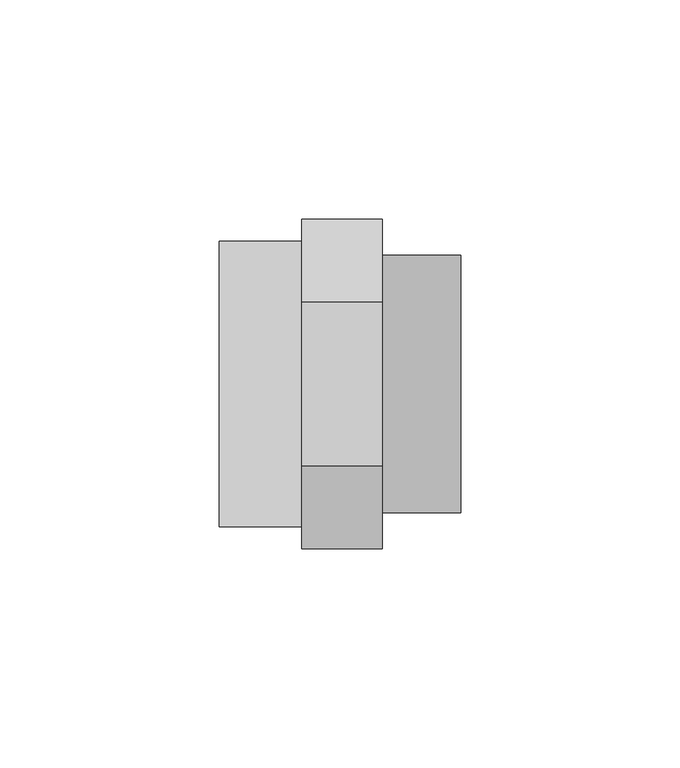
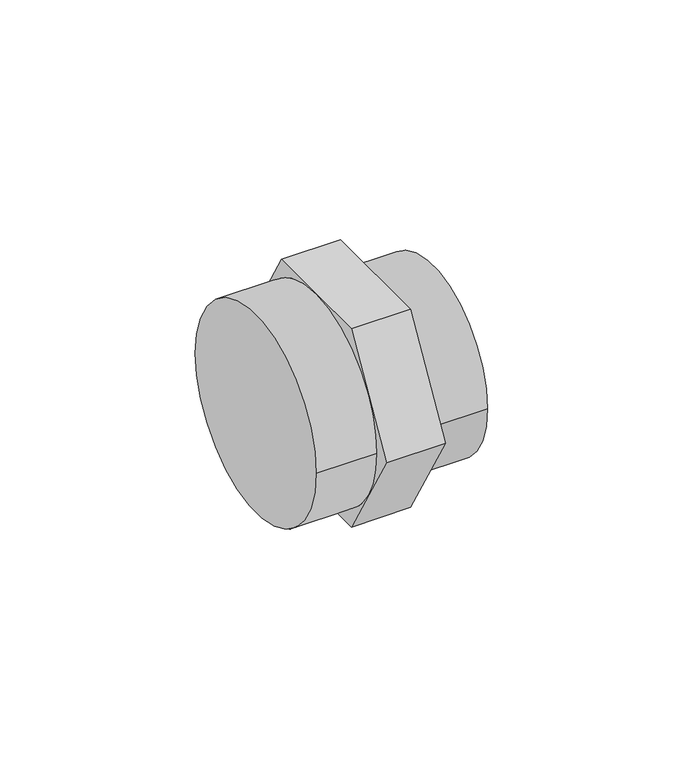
"""IFC4 building model written with IfcOpenShell, lengths in millimetres: pipe fitting geometry, 01021007 : Mamelons de réduction FxF avec anneaux de renfo."""

from ifc_helpers import new_model, si_unit, frame, origin, place, context, project, spatial, circle_curve, source, transform, mapped, element, save
from ifc_brep_helpers import plane_surface, cylinder_surface, advanced_brep


def pipe_fitting_e9472474(model_context):
    return source(origin(), model_context, "Body", "AdvancedBrep", [
        advanced_brep(
        [(37.1666667, -18.7638837, 32.5), (37.1666667, -37.5277675, 0.0), (37.1666667, -18.7638837, -32.5), (37.1666667, 18.7638837, -32.5), (37.1666667, 37.5277675, 0.0), (37.1666667, 18.7638837, 32.5), (37.1666667, -29.325, 0.0), (37.1666667, 29.325, 0.0), (18.8333333, -18.7638837, 32.5), (18.8333333, 0.0, 32.5), (18.8333333, -28.1458256, 16.25), (18.8333333, 18.7638837, 32.5), (18.8333333, 28.1458256, 16.25), (18.8333333, 37.5277675, 0.0), (18.8333333, 28.1458256, -16.25), (18.8333333, 32.5, 0.0), (18.8333333, 18.7638837, -32.5), (18.8333333, 0.0, -32.5), (18.8333333, -18.7638837, -32.5), (18.8333333, -28.1458256, -16.25), (18.8333333, -37.5277675, 0.0), (18.8333333, -32.5, 0.0), (55.0, -29.325, 0.0), (55.0, 29.325, 0.0), (0.0, 32.5, 0.0), (0.0, -32.5, 0.0)],
        [
            (0, 1),
            (1, 2),
            (2, 3),
            (3, 4),
            (4, 5),
            (5, 0),
            (6, 7, circle_curve(frame((37.1666667, 0.0, 0.0), z_axis=(-1.0, 0.0, 0.0), x_axis=(0.0, 1.0, 0.0)), 29.325)),
            (7, 6, circle_curve(frame((37.1666667, 0.0, 0.0), z_axis=(-1.0, 0.0, 0.0), x_axis=(0.0, 1.0, 0.0)), 29.325)),
            (8, 9),
            (9, 10, circle_curve(frame((18.8333333, 0.0, 0.0), z_axis=(1.0, 0.0, 0.0), x_axis=(0.0, -1.0, 0.0)), 32.5)),
            (10, 8),
            (9, 11),
            (11, 12),
            (12, 9, circle_curve(frame((18.8333333, 0.0, 0.0), z_axis=(1.0, 0.0, 0.0), x_axis=(0.0, -1.0, 0.0)), 32.5)),
            (12, 13),
            (13, 14),
            (14, 15, circle_curve(frame((18.8333333, 0.0, 0.0), z_axis=(1.0, 0.0, 0.0), x_axis=(0.0, -1.0, 0.0)), 32.5)),
            (15, 12, circle_curve(frame((18.8333333, 0.0, 0.0), z_axis=(1.0, 0.0, 0.0), x_axis=(0.0, -1.0, 0.0)), 32.5)),
            (14, 16),
            (16, 17),
            (17, 14, circle_curve(frame((18.8333333, 0.0, 0.0), z_axis=(1.0, 0.0, 0.0), x_axis=(0.0, -1.0, 0.0)), 32.5)),
            (17, 18),
            (18, 19),
            (19, 17, circle_curve(frame((18.8333333, 0.0, 0.0), z_axis=(1.0, 0.0, 0.0), x_axis=(0.0, -1.0, 0.0)), 32.5)),
            (19, 20),
            (20, 10),
            (10, 21, circle_curve(frame((18.8333333, 0.0, 0.0), z_axis=(1.0, 0.0, 0.0), x_axis=(0.0, -1.0, 0.0)), 32.5)),
            (21, 19, circle_curve(frame((18.8333333, 0.0, 0.0), z_axis=(1.0, 0.0, 0.0), x_axis=(0.0, -1.0, 0.0)), 32.5)),
            (0, 8),
            (20, 1),
            (18, 2),
            (16, 3),
            (13, 4),
            (11, 5),
            (22, 23, circle_curve(frame((55.0, 0.0, 0.0), z_axis=(1.0, 0.0, 0.0), x_axis=(0.0, 1.0, 0.0)), 29.325)),
            (23, 22, circle_curve(frame((55.0, 0.0, 0.0), z_axis=(1.0, 0.0, 0.0), x_axis=(0.0, 1.0, 0.0)), 29.325)),
            (23, 7),
            (6, 22),
            (24, 25, circle_curve(frame((0.0, 0.0, 0.0), z_axis=(-1.0, 0.0, 0.0), x_axis=(0.0, -1.0, 0.0)), 32.5)),
            (25, 24, circle_curve(frame((0.0, 0.0, 0.0), z_axis=(-1.0, 0.0, 0.0), x_axis=(0.0, -1.0, 0.0)), 32.5)),
            (25, 21),
            (15, 24),
        ],
        [
            plane_surface(frame((37.1666667, -18.7638837, 32.5), z_axis=(1.0, 0.0, 0.0), x_axis=(0.0, -0.5000000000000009, -0.8660254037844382))),
            plane_surface(frame((18.8333333, -18.7638837, 32.5), z_axis=(-1.0, 0.0, 0.0), x_axis=(0.0, 0.5000000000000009, 0.8660254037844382))),
            plane_surface(frame((37.1666667, -18.7638837, 32.5), z_axis=(0.0, -0.8660254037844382, 0.5000000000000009), x_axis=(-1.0, 0.0, 0.0))),
            plane_surface(frame((37.1666667, -37.5277675, 0.0), z_axis=(0.0, -0.8660254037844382, -0.500000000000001), x_axis=(-1.0, 0.0, 0.0))),
            plane_surface(frame((37.1666667, -18.7638837, -32.5), z_axis=(0.0, 0.0, -1.0), x_axis=(-1.0, 0.0, 0.0))),
            plane_surface(frame((37.1666667, 18.7638837, -32.5), z_axis=(0.0, 0.8660254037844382, -0.500000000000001), x_axis=(-1.0, 0.0, 0.0))),
            plane_surface(frame((37.1666667, 37.5277675, 0.0), z_axis=(0.0, 0.866025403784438, 0.5000000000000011), x_axis=(-1.0, 0.0, 0.0))),
            plane_surface(frame((37.1666667, 18.7638837, 32.5), z_axis=(0.0, 0.0, 1.0), x_axis=(-1.0, 0.0, 0.0))),
            plane_surface(frame((55.0, 0.0, 0.0), z_axis=(1.0, 0.0, 0.0), x_axis=(0.0, 0.0, 1.0))),
            cylinder_surface(frame((33.0, 0.0, 0.0), z_axis=(-1.0, 0.0, 0.0), x_axis=(0.0, 1.0, 0.0)), 29.325),
            plane_surface(frame((0.0, 0.0, 0.0), z_axis=(-1.0, 0.0, 0.0), x_axis=(0.0, 0.0, 1.0))),
            cylinder_surface(frame((23.0, 0.0, 0.0), z_axis=(1.0, 0.0, 0.0), x_axis=(0.0, -1.0, 0.0)), 32.5),
        ],
        [
            (0, [[1, 2, 3, 4, 5, 6], [7, 8]]),
            (1, [[9, 10, 11]]),
            (1, [[12, 13, 14]]),
            (1, [[15, 16, 17, 18]]),
            (1, [[19, 20, 21]]),
            (1, [[22, 23, 24]]),
            (1, [[25, 26, 27, 28]]),
            (2, [[-1, 29, -11, -26, 30]]),
            (3, [[-2, -30, -25, -23, 31]]),
            (4, [[-3, -31, -22, -20, 32]]),
            (5, [[-4, -32, -19, -16, 33]]),
            (6, [[-5, -33, -15, -13, 34]]),
            (7, [[-6, -34, -12, -9, -29]]),
            (8, [[35, 36]]),
            (9, [[-36, 37, -7, 38]]),
            (9, [[-35, -38, -8, -37]]),
            (10, [[39, 40]]),
            (11, [[-40, 41, -27, -10, -14, -18, 42]]),
            (11, [[-39, -42, -17, -21, -24, -28, -41]]),
        ],
    ),
    ])


if __name__ == "__main__":
    model = new_model("IFC4")
    model_context = context("Model", 3, world=origin())
    ifc_project = project(units=[si_unit("LENGTHUNIT", "METRE", prefix="MILLI")], contexts=[model_context])
    site = spatial("IfcSite", under=ifc_project)
    building = spatial("IfcBuilding", under=site)
    placement = place(None, origin())
    pipe_fitting_shape = pipe_fitting_e9472474(model_context)
    element("IfcPipeFitting", 1, ObjectType="01021007 : Mamelons de réduction FxF avec anneaux de renfo", at=placement, inside=building, context=model_context, shape_type="MappedRepresentation", body=[
        mapped(pipe_fitting_shape, transform((0.0, 0.0, 0.0), x_axis=(1.0, 0.0, 0.0), y_axis=(0.0, 1.0, 0.0), z_axis=(0.0, 0.0, 1.0))),
    ])
    save(model, "model.ifc")
